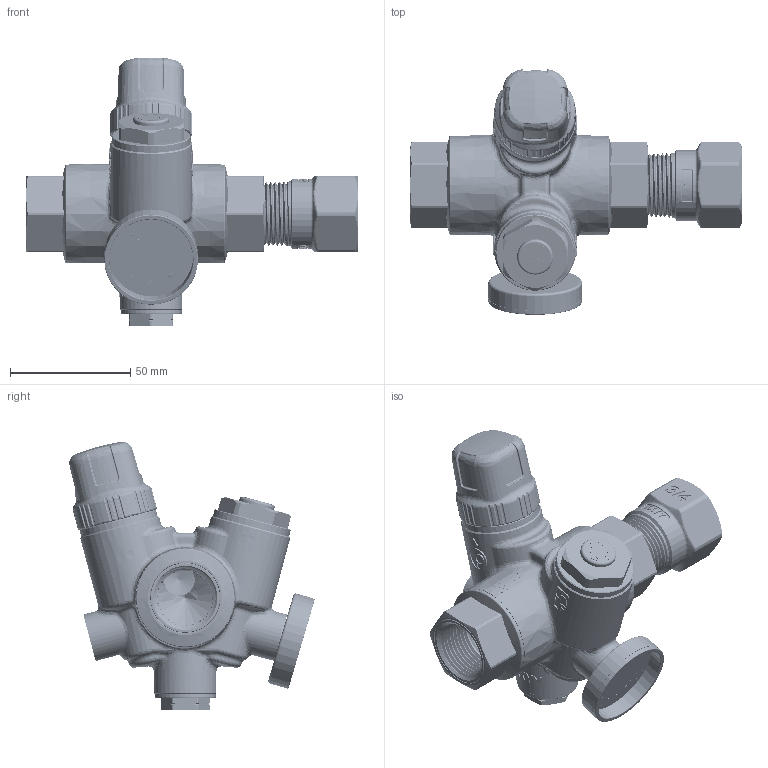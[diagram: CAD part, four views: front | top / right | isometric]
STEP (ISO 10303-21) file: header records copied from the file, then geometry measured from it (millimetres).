
FILE_DESCRIPTION(('Open CASCADE Model'),'2;1');
FILE_NAME('Open CASCADE Shape Model','2022-01-26T10:58:14',('Author'),( 'Open CASCADE'),'Open CASCADE STEP processor 7.3','Open CASCADE 7.3' ,'Unknown');
FILE_SCHEMA(('AUTOMOTIVE_DESIGN { 1 0 10303 214 1 1 1 1 }'));
Length unit declared in the file: millimetre
Products named in the file (29): Open CASCADE STEP translator 7.3 1; Open CASCADE STEP translator 7.3 1.1; Open CASCADE STEP translator 7.3 1.1.1; Open CASCADE STEP translator 7.3 1.1.2; Open CASCADE STEP translator 7.3 1.1.3; Open CASCADE STEP translator 7.3 1.2; Open CASCADE STEP translator 7.3 1.2.1; Open CASCADE STEP translator 7.3 1.2.2; Open CASCADE STEP translator 7.3 1.2.3; Open CASCADE STEP translator 7.3 1.2.4; Open CASCADE STEP translator 7.3 1.2.5; Open CASCADE STEP translator 7.3 1.2.6; Open CASCADE STEP translator 7.3 1.2.7; Open CASCADE STEP translator 7.3 1.2.8; Open CASCADE STEP translator 7.3 1.2.9; Open CASCADE STEP translator 7.3 1.2.10; Open CASCADE STEP translator 7.3 1.2.11; Open CASCADE STEP translator 7.3 1.2.12; Open CASCADE STEP translator 7.3 1.2.13; Open CASCADE STEP translator 7.3 1.2.14; Open CASCADE STEP translator 7.3 1.2.15; Open CASCADE STEP translator 7.3 1.2.16; Open CASCADE STEP translator 7.3 1.2.17; Open CASCADE STEP translator 7.3 1.2.18; Open CASCADE STEP translator 7.3 1.2.19; Open CASCADE STEP translator 7.3 1.2.20; Open CASCADE STEP translator 7.3 1.2.21; Open CASCADE STEP translator 7.3 1.2.22; Open CASCADE STEP translator 7.3 1.2.23
Assembly tree (28 placements, depth 3):
  Open CASCADE STEP translator 7.3 1
    Open CASCADE STEP translator 7.3 1.1
      Open CASCADE STEP translator 7.3 1.1.1
      Open CASCADE STEP translator 7.3 1.1.2
      Open CASCADE STEP translator 7.3 1.1.3
    Open CASCADE STEP translator 7.3 1.2
      Open CASCADE STEP translator 7.3 1.2.1
      Open CASCADE STEP translator 7.3 1.2.2
      Open CASCADE STEP translator 7.3 1.2.3
      Open CASCADE STEP translator 7.3 1.2.4
      Open CASCADE STEP translator 7.3 1.2.5
      Open CASCADE STEP translator 7.3 1.2.6
      Open CASCADE STEP translator 7.3 1.2.7
      Open CASCADE STEP translator 7.3 1.2.8
      Open CASCADE STEP translator 7.3 1.2.9
      Open CASCADE STEP translator 7.3 1.2.10
      Open CASCADE STEP translator 7.3 1.2.11
      Open CASCADE STEP translator 7.3 1.2.12
      Open CASCADE STEP translator 7.3 1.2.13
      Open CASCADE STEP translator 7.3 1.2.14
      Open CASCADE STEP translator 7.3 1.2.15
      Open CASCADE STEP translator 7.3 1.2.16
      Open CASCADE STEP translator 7.3 1.2.17
      Open CASCADE STEP translator 7.3 1.2.18
      Open CASCADE STEP translator 7.3 1.2.19
      Open CASCADE STEP translator 7.3 1.2.20
      Open CASCADE STEP translator 7.3 1.2.21
      Open CASCADE STEP translator 7.3 1.2.22
      Open CASCADE STEP translator 7.3 1.2.23
Bounding box: 138 x 102.01 x 111.79 mm (x, y, z)
Volume: 157379.9 mm3; surface area: 110554.6 mm2
Topology: 26 solids, 27 shells, 6214 faces, 16018 edges, 10087 vertices
Faces by surface type: extrusion 1747, plane 1414, cylinder 1233, bspline 744, cone 509, torus 427, sphere 88, revolution 52
Entity records: 685372 total; most frequent: CARTESIAN_POINT 404928, DIRECTION 37721, ORIENTED_EDGE 32004, PCURVE 32004, DEFINITIONAL_REPRESENTATION 32004, B_SPLINE_CURVE_WITH_KNOTS 24521, VECTOR 21578, LINE 19831
